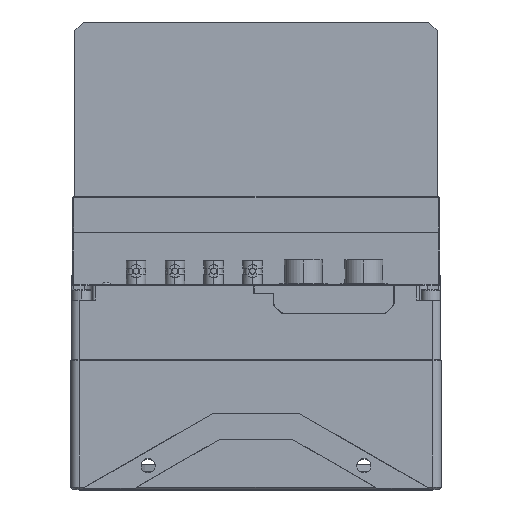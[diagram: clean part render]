
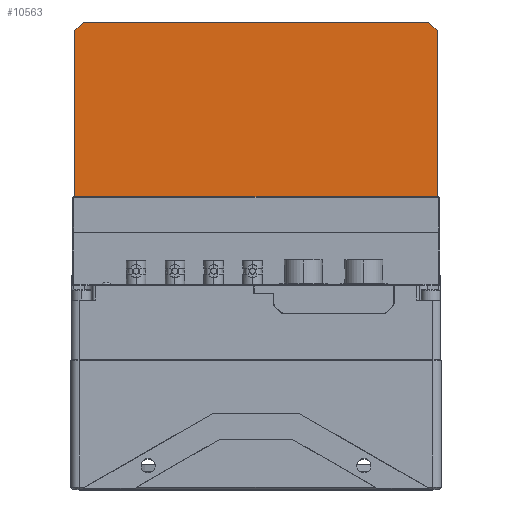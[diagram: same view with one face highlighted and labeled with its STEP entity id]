
A CAD part, top view. The second image highlights one B-rep face of the part: STEP entity #10563.
In plain terms, the highlighted planar face has unit normal (0, 0, 1).
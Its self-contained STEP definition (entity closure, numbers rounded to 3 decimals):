
#705 = CARTESIAN_POINT ( 'NONE',  ( -139.943, 134.33, 111.312 ) ) ;
#1832 = VERTEX_POINT ( 'NONE', #22695 ) ;
#2934 = CARTESIAN_POINT ( 'NONE',  ( -139.943, 95.83, 111.312 ) ) ;
#4746 = AXIS2_PLACEMENT_3D ( 'NONE', #42201, #35348, #18633 ) ;
#5544 = VECTOR ( 'NONE', #31735, 1000. ) ;
#7213 = EDGE_CURVE ( 'NONE', #25935, #8538, #34050, .T. ) ;
#8538 = VERTEX_POINT ( 'NONE', #24392 ) ;
#10171 = ORIENTED_EDGE ( 'NONE', *, *, #25480, .T. ) ;
#10350 = LINE ( 'NONE', #29814, #35429 ) ;
#10563 = ADVANCED_FACE ( 'NONE', ( #23622 ), #39067, .F. ) ;
#11139 = EDGE_LOOP ( 'NONE', ( #26123, #35192, #27251, #27218, #10171, #32127 ) ) ;
#12818 = DIRECTION ( 'NONE',  ( 0., 1., 0. ) ) ;
#13283 = VECTOR ( 'NONE', #17057, 1000. ) ;
#15280 = DIRECTION ( 'NONE',  ( 1., 0., 0. ) ) ;
#17057 = DIRECTION ( 'NONE',  ( -0.707, -0.707, 0. ) ) ;
#17420 = CARTESIAN_POINT ( 'NONE',  ( -55.943, 134.33, 111.312 ) ) ;
#18435 = CARTESIAN_POINT ( 'NONE',  ( -140.643, 136.33, 111.312 ) ) ;
#18633 = DIRECTION ( 'NONE',  ( -1., 0., 0. ) ) ;
#20142 = LINE ( 'NONE', #17420, #25491 ) ;
#22695 = CARTESIAN_POINT ( 'NONE',  ( -137.943, 136.33, 111.312 ) ) ;
#23378 = DIRECTION ( 'NONE',  ( 0., -1., 0. ) ) ;
#23622 = FACE_OUTER_BOUND ( 'NONE', #11139, .T. ) ;
#24392 = CARTESIAN_POINT ( 'NONE',  ( -55.943, 134.33, 111.312 ) ) ;
#25480 = EDGE_CURVE ( 'NONE', #37357, #31249, #10350, .T. ) ;
#25491 = VECTOR ( 'NONE', #27906, 1000. ) ;
#25740 = CARTESIAN_POINT ( 'NONE',  ( -139.943, 134.33, 111.312 ) ) ;
#25935 = VERTEX_POINT ( 'NONE', #34005 ) ;
#26123 = ORIENTED_EDGE ( 'NONE', *, *, #7213, .T. ) ;
#26865 = CARTESIAN_POINT ( 'NONE',  ( -55.943, 136.33, 111.312 ) ) ;
#27218 = ORIENTED_EDGE ( 'NONE', *, *, #28162, .T. ) ;
#27251 = ORIENTED_EDGE ( 'NONE', *, *, #29314, .F. ) ;
#27906 = DIRECTION ( 'NONE',  ( -0.707, 0.707, 0. ) ) ;
#28162 = EDGE_CURVE ( 'NONE', #1832, #37357, #29333, .T. ) ;
#28289 = CARTESIAN_POINT ( 'NONE',  ( -140.643, 95.83, 111.312 ) ) ;
#28777 = VECTOR ( 'NONE', #15280, 1000. ) ;
#29314 = EDGE_CURVE ( 'NONE', #1832, #39250, #39981, .T. ) ;
#29333 = LINE ( 'NONE', #705, #13283 ) ;
#29814 = CARTESIAN_POINT ( 'NONE',  ( -139.943, 136.33, 111.312 ) ) ;
#31249 = VERTEX_POINT ( 'NONE', #2934 ) ;
#31735 = DIRECTION ( 'NONE',  ( 1., 0., 0. ) ) ;
#32127 = ORIENTED_EDGE ( 'NONE', *, *, #40930, .T. ) ;
#34005 = CARTESIAN_POINT ( 'NONE',  ( -55.943, 95.83, 111.312 ) ) ;
#34050 = LINE ( 'NONE', #26865, #40995 ) ;
#35192 = ORIENTED_EDGE ( 'NONE', *, *, #35878, .T. ) ;
#35348 = DIRECTION ( 'NONE',  ( 0., 0., -1. ) ) ;
#35429 = VECTOR ( 'NONE', #23378, 1000. ) ;
#35878 = EDGE_CURVE ( 'NONE', #8538, #39250, #20142, .T. ) ;
#37357 = VERTEX_POINT ( 'NONE', #25740 ) ;
#38042 = LINE ( 'NONE', #28289, #5544 ) ;
#39067 = PLANE ( 'NONE',  #4746 ) ;
#39250 = VERTEX_POINT ( 'NONE', #41046 ) ;
#39981 = LINE ( 'NONE', #18435, #28777 ) ;
#40930 = EDGE_CURVE ( 'NONE', #31249, #25935, #38042, .T. ) ;
#40995 = VECTOR ( 'NONE', #12818, 1000. ) ;
#41046 = CARTESIAN_POINT ( 'NONE',  ( -57.943, 136.33, 111.312 ) ) ;
#42201 = CARTESIAN_POINT ( 'NONE',  ( -140.643, 136.33, 111.312 ) ) ;
